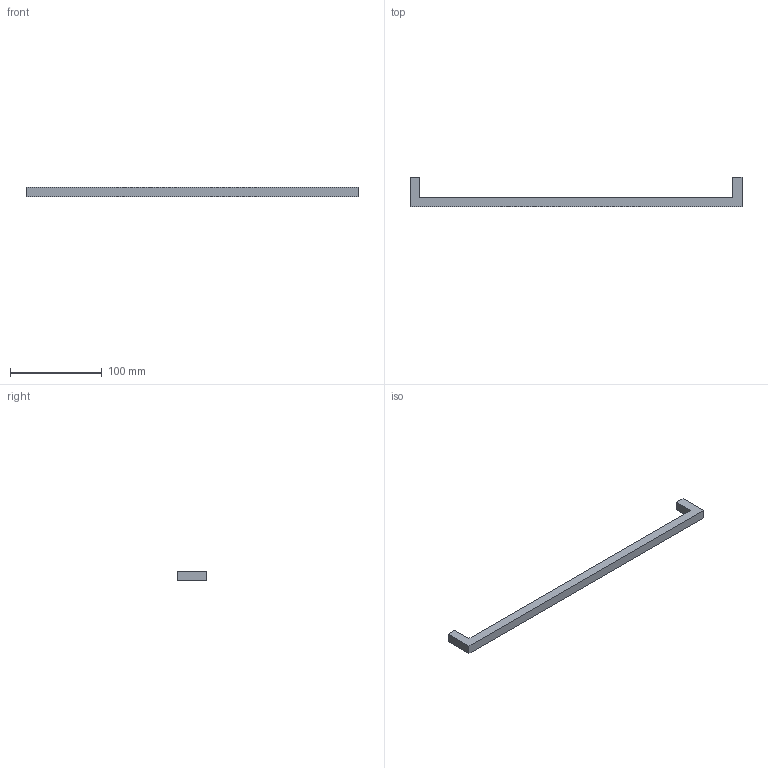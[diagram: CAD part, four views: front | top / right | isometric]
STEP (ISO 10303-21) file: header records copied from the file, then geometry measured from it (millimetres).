
FILE_DESCRIPTION( ( '' ), '1' );
FILE_NAME( 'C:/Documents and Settings/Sachin/Desktop/Sheet 10_1/stp/1160022.stp', '2013-10-22T06:48:25', ( '' ), ( '' ), ' ', ' ', ' ' );
FILE_SCHEMA( ( 'CONFIG_CONTROL_DESIGN' ) );
Length unit declared in the file: millimetre
Products named in the file (1): 1
Bounding box: 362 x 32 x 10 mm (x, y, z)
Volume: 40348.7 mm3; surface area: 16691.3 mm2
Topology: 1 solids, 1 shells, 16 faces, 36 edges, 24 vertices
Faces by surface type: plane 12, cylinder 4
Entity records: 492 total; most frequent: DIRECTION 78, CARTESIAN_POINT 77, ORIENTED_EDGE 72, EDGE_CURVE 36, LINE 28, VECTOR 28, AXIS2_PLACEMENT_3D 25, VERTEX_POINT 24
